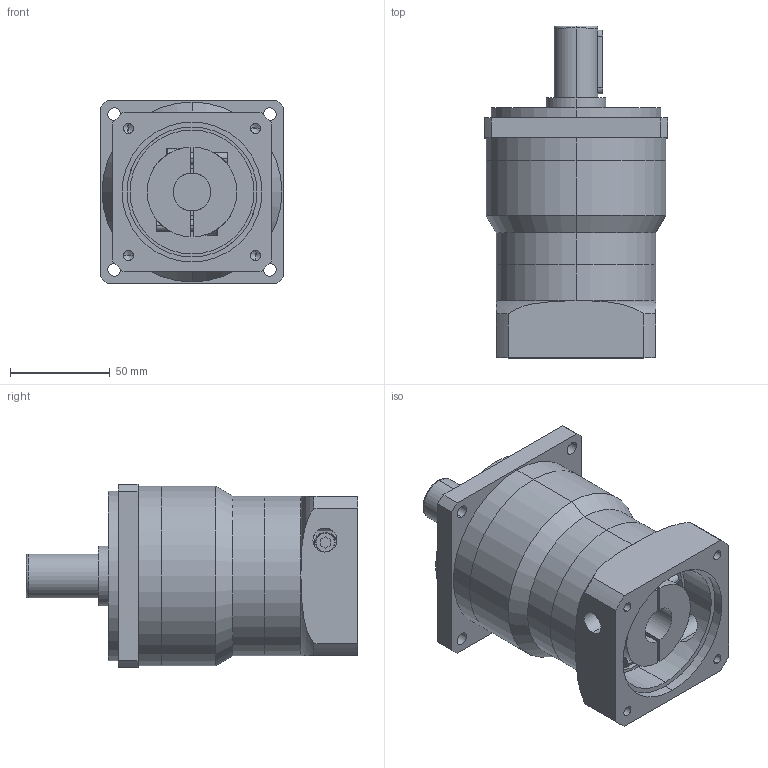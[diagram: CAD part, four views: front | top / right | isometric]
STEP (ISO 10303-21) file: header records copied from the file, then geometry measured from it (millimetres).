
FILE_DESCRIPTION (( 'STEP AP203' ), '1' );
FILE_NAME ('WPF090ﾐﾂ-L1(750W)ﾍ簟ﾎﾍｼ(19-41-70-90-M6).STEP', '2018-07-04T09:06:51', ( 'wanshsin' ), ( 'Microsoft' ), 'SwSTEP 2.0', 'SolidWorks 2014', '' );
FILE_SCHEMA (( 'CONFIG_CONTROL_DESIGN' ));
Length unit declared in the file: millimetre
Products named in the file (1): WPF090ﾐﾂ-L1(750W)ﾍ簟ﾎﾍｼ(19-41-70-90-M6)
Bounding box: 92 x 166 x 92 mm (x, y, z)
Volume: 690234.1 mm3; surface area: 96212.7 mm2
Topology: 4 solids, 4 shells, 167 faces, 390 edges, 243 vertices
Faces by surface type: cylinder 82, plane 59, cone 16, torus 10
Entity records: 5417 total; most frequent: CARTESIAN_POINT 1427, DIRECTION 868, ORIENTED_EDGE 760, EDGE_CURVE 380, AXIS2_PLACEMENT_3D 344, VERTEX_POINT 243, EDGE_LOOP 207, LINE 180
